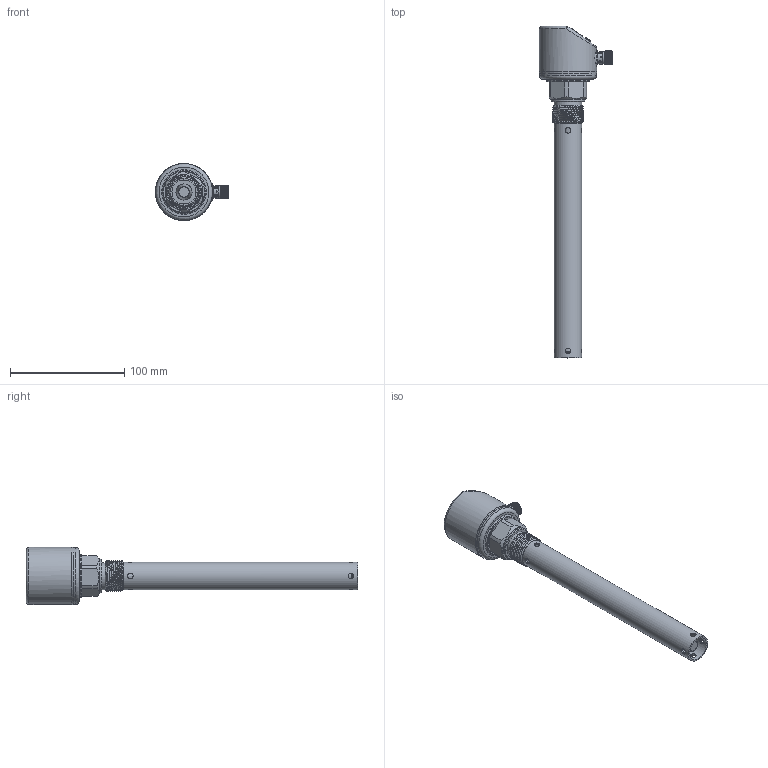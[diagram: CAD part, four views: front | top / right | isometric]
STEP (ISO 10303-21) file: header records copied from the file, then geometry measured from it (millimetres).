
FILE_DESCRIPTION (( 'STEP AP214' ), '1' );
FILE_NAME ('3-4数显电容-200（同轴）.STEP', '2025-03-11T06:16:42', ( '' ), ( '' ), 'SwSTEP 2.0', 'SolidWorks 2020', '' );
FILE_SCHEMA (( 'AUTOMOTIVE_DESIGN' ));
Length unit declared in the file: millimetre
Products named in the file (9): 3-4数显电容-200（同轴）; PVC躇猾菜; 肮粣奪; 滅阨諉芛褲极1; 恦謫抻芛5; 揤薯奻裔; 偌瑩簽; 抻芛ㄗ蟀哿講ㄘ; 揤薯珆尨欶
Assembly tree (10 placements, depth 2):
  3-4数显电容-200（同轴）
    揤薯奻裔
    揤薯珆尨欶
    滅阨諉芛褲极1
    偌瑩簽  x3
    PVC躇猾菜
    恦謫抻芛5
    抻芛ㄗ蟀哿講ㄘ
    肮粣奪
Bounding box: 64 x 290.1 x 50 mm (x, y, z)
Volume: 75287.1 mm3; surface area: 68515.7 mm2
Topology: 10 solids, 10 shells, 318 faces, 752 edges, 486 vertices
Faces by surface type: plane 128, cylinder 118, cone 44, bspline 13, torus 11, sphere 4
Full cylindrical faces by diameter (mm): 1 x4, 1.2 x3, 1.8 x1, 2 x3, 2.5 x6, 2.8 x1, 4.3 x3, 4.5 x6, 5 x8, 6 x1, 7.2 x1, 8 x1, 8.5 x1, 9.75 x1, 10 x1, 10.49 x1, 10.5 x1, 10.8 x1, 10.9 x1, 11 x2, 12 x1, 21 x2, 24 x2, 29.5 x1, 35 x1, 37 x1, 43.9 x1, 45.4 x1, 45.6 x2, 48 x3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
Entity records: 14721 total; most frequent: CARTESIAN_POINT 7955, DIRECTION 1314, ORIENTED_EDGE 1104, EDGE_CURVE 552, AXIS2_PLACEMENT_3D 536, EDGE_LOOP 479, VERTEX_POINT 411, FACE_OUTER_BOUND 359
